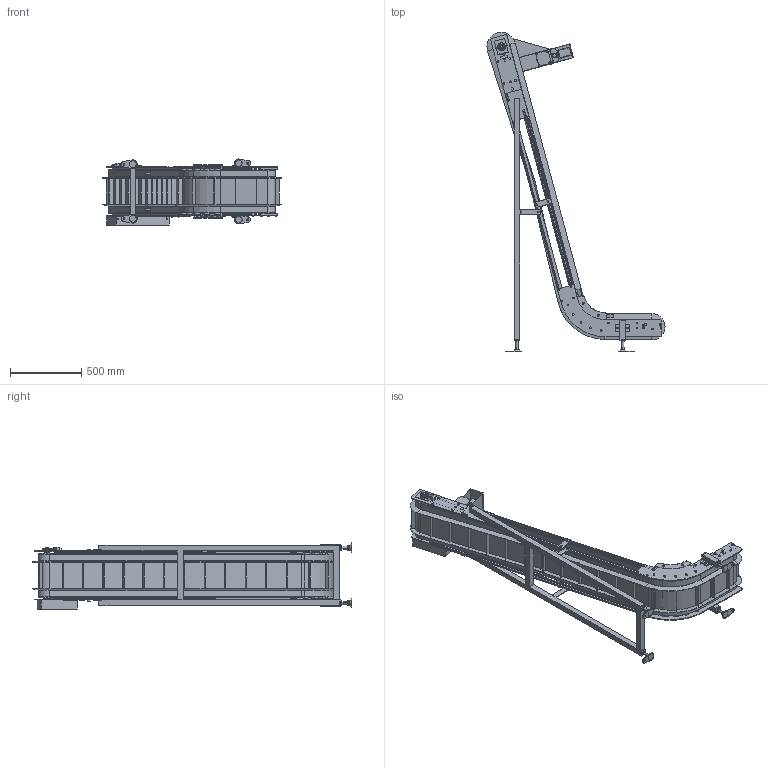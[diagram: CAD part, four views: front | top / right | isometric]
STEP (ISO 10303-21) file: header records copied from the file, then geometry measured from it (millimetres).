
FILE_DESCRIPTION( (''), '2;1');
FILE_NAME ('SMMX2-B-309-300-200-75°-K-180-O.stp','2025-02-17T14:56:40',(''),(''),'spGate 20.6.2 (****-****-****-****)','','');
FILE_SCHEMA (('AUTOMOTIVE_DESIGN'));
Length unit declared in the file: millimetre
Products named in the file (62): NewModel; TEMP_X_T-prt0; TEMP_X_T-prt1; TEMP_X_T-prt2; TEMP_X_T-prt3; TEMP_X_T-prt4; TEMP_X_T-prt5; TEMP_X_T-prt6; TEMP_X_T-prt7; TEMP_X_T-prt8; TEMP_X_T-prt9; TEMP_X_T-prt10; TEMP_X_T-prt11; TEMP_X_T-prt12; TEMP_X_T-prt13; TEMP_X_T-prt14; TEMP_X_T-prt15; TEMP_X_T-prt16; TEMP_X_T-prt17; TEMP_X_T-prt18; TEMP_X_T-prt19; TEMP_X_T-prt20; TEMP_X_T-prt21; TEMP_X_T-prt22; TEMP_X_T-prt23; TEMP_X_T-prt24; TEMP_X_T-prt25; TEMP_X_T-prt26; TEMP_X_T-prt27; TEMP_X_T-prt28; TEMP_X_T-prt29; TEMP_X_T-prt30; TEMP_X_T-prt31; TEMP_X_T-prt32; TEMP_X_T-prt33; TEMP_X_T-prt34; TEMP_X_T-prt35; TEMP_X_T-prt36; TEMP_X_T-prt37; TEMP_X_T-prt38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
Assembly tree (61 placements, depth 2):
  NewModel
    TEMP_X_T-prt0
    TEMP_X_T-prt1
    TEMP_X_T-prt2
    TEMP_X_T-prt3
    TEMP_X_T-prt4
    TEMP_X_T-prt5
    TEMP_X_T-prt6
    TEMP_X_T-prt7
    TEMP_X_T-prt8
    TEMP_X_T-prt9
    TEMP_X_T-prt10
    TEMP_X_T-prt11
    TEMP_X_T-prt12
    TEMP_X_T-prt13
    TEMP_X_T-prt14
    TEMP_X_T-prt15
    TEMP_X_T-prt16
    TEMP_X_T-prt17
    TEMP_X_T-prt18
    TEMP_X_T-prt19
    TEMP_X_T-prt20
    TEMP_X_T-prt21
    TEMP_X_T-prt22
    TEMP_X_T-prt23
    TEMP_X_T-prt24
    TEMP_X_T-prt25
    TEMP_X_T-prt26
    TEMP_X_T-prt27
    TEMP_X_T-prt28
    TEMP_X_T-prt29
    TEMP_X_T-prt30
    TEMP_X_T-prt31
    TEMP_X_T-prt32
    TEMP_X_T-prt33
    TEMP_X_T-prt34
    TEMP_X_T-prt35
    TEMP_X_T-prt36
    TEMP_X_T-prt37
    TEMP_X_T-prt38
    TEMP_X_T-prt39
    TEMP_X_T-prt40
    TEMP_X_T-prt41
    TEMP_X_T-prt42
    TEMP_X_T-prt43
    TEMP_X_T-prt44
    TEMP_X_T-prt45
    TEMP_X_T-prt46
    TEMP_X_T-prt47
    TEMP_X_T-prt48
    TEMP_X_T-prt49
    TEMP_X_T-prt50
    TEMP_X_T-prt51
    TEMP_X_T-prt52
    TEMP_X_T-prt53
    TEMP_X_T-prt54
    TEMP_X_T-prt55
    TEMP_X_T-prt56
    TEMP_X_T-prt57
    TEMP_X_T-prt58
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Bounding box: 1251.52 x 2243.33 x 464.5 mm (x, y, z)
Volume: 32803689.7 mm3; surface area: 9884706.9 mm2
Topology: 61 solids, 61 shells, 3014 faces, 7231 edges, 4675 vertices
Faces by surface type: plane 2096, cylinder 718, bspline 200
Entity records: 150381 total; most frequent: CARTESIAN_POINT 19654, ORIENTED_EDGE 14438, DIRECTION 14078, COLOUR_RGB 10294, PRESENTATION_STYLE_ASSIGNMENT 10294, STYLED_ITEM 10294, EDGE_CURVE 7219, DRAUGHTING_PRE_DEFINED_CURVE_FONT 7219
